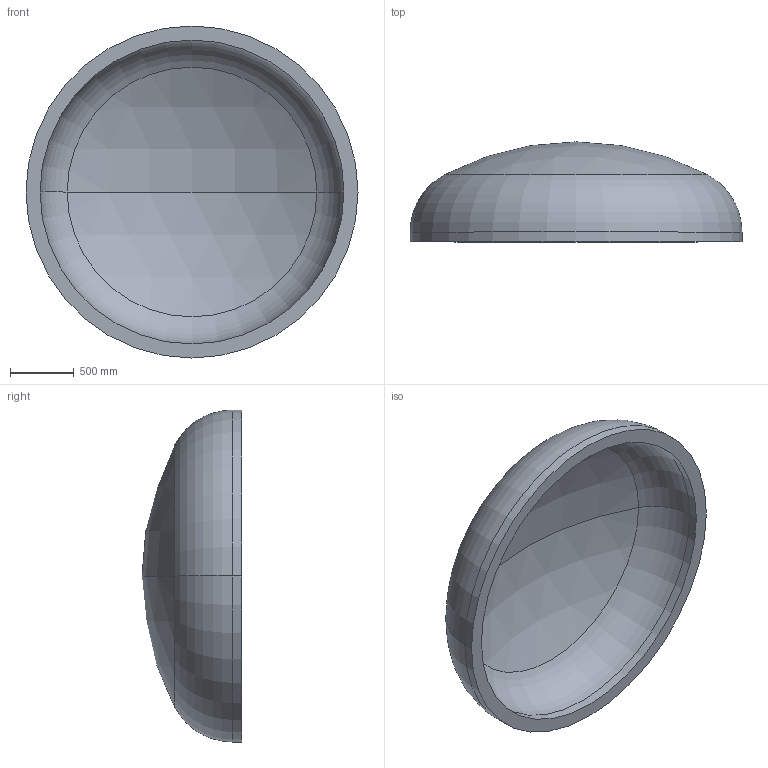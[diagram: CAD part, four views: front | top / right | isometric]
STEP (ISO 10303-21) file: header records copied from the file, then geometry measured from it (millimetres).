
FILE_DESCRIPTION (( 'STEP AP203' ), '1' );
FILE_NAME ('DIN 28013 Korbbogenform_-_Boden DIN 28013 - 2600 x 75 - I - s=110.step', '2016-07-01T16:34:03', ( '' ), ( '' ), 'SwSTEP 2.0', 'SolidWorks 2013', '' );
FILE_SCHEMA (( 'CONFIG_CONTROL_DESIGN' ));
Length unit declared in the file: millimetre
Products named in the file (1): DIN 28013 Korbbogenform_-_Boden DIN 28013 - 2600 x 75 - I - s=110
Bounding box: 2600 x 782.33 x 2600 mm (x, y, z)
Volume: 830176543.9 mm3; surface area: 15979938.8 mm2
Topology: 1 solids, 1 shells, 13 faces, 24 edges, 14 vertices
Faces by surface type: torus 4, cylinder 4, sphere 4, plane 1
Entity records: 407 total; most frequent: DIRECTION 72, CARTESIAN_POINT 52, ORIENTED_EDGE 48, AXIS2_PLACEMENT_3D 34, EDGE_CURVE 24, CIRCLE 20, EDGE_LOOP 14, VERTEX_POINT 14
